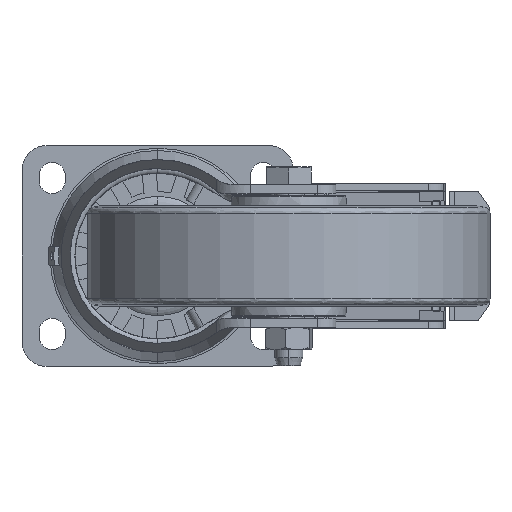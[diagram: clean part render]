
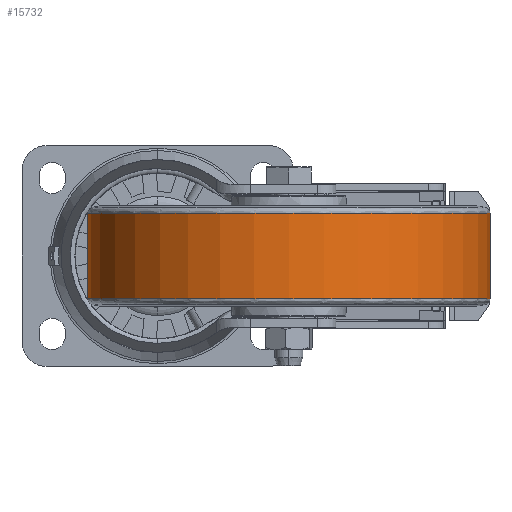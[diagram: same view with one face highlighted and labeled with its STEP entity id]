
A CAD part, front view. The second image highlights one B-rep face of the part: STEP entity #15732.
In plain terms, the highlighted cylindrical face has radius 100 mm (diameter 200 mm), a partial arc.
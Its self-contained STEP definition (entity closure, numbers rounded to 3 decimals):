
#115 = CYLINDRICAL_SURFACE ( 'NONE', #186, 100. ) ;
#116 = FACE_OUTER_BOUND ( 'NONE', #15735, .T. ) ;
#176 = DIRECTION ( 'NONE',  ( -1., 0., 0. ) ) ;
#177 = DIRECTION ( 'NONE',  ( 0., 0., -1. ) ) ;
#185 = CARTESIAN_POINT ( 'NONE',  ( 65.2, -126.869, -21.248 ) ) ;
#186 = AXIS2_PLACEMENT_3D ( 'NONE', #185, #177, #176 ) ;
#426 = CARTESIAN_POINT ( 'NONE',  ( -34.8, -126.869, -21.248 ) ) ;
#427 = CARTESIAN_POINT ( 'NONE',  ( -34.8, -126.869, -21.248 ) ) ;
#445 = CARTESIAN_POINT ( 'NONE',  ( 165.2, -126.869, -21.248 ) ) ;
#446 = DIRECTION ( 'NONE',  ( 0., 0., -1. ) ) ;
#447 = VECTOR ( 'NONE', #446, 1000. ) ;
#448 = CARTESIAN_POINT ( 'NONE',  ( 165.2, -126.869, -21.248 ) ) ;
#449 = LINE ( 'NONE', #448, #447 ) ;
#472 = DIRECTION ( 'NONE',  ( 0., 0., -1. ) ) ;
#473 = VECTOR ( 'NONE', #472, 1000. ) ;
#479 = LINE ( 'NONE', #426, #473 ) ;
#578 = DIRECTION ( 'NONE',  ( -1., 0., 0. ) ) ;
#579 = DIRECTION ( 'NONE',  ( 0., 0., -1. ) ) ;
#580 = CARTESIAN_POINT ( 'NONE',  ( 65.2, -126.869, 21.248 ) ) ;
#581 = AXIS2_PLACEMENT_3D ( 'NONE', #580, #579, #578 ) ;
#582 = CIRCLE ( 'NONE', #581, 100. ) ;
#620 = DIRECTION ( 'NONE',  ( -1., 0., 0. ) ) ;
#621 = DIRECTION ( 'NONE',  ( 0., 0., 1. ) ) ;
#622 = CARTESIAN_POINT ( 'NONE',  ( 65.2, -126.869, -21.248 ) ) ;
#623 = AXIS2_PLACEMENT_3D ( 'NONE', #622, #621, #620 ) ;
#634 = CIRCLE ( 'NONE', #623, 100. ) ;
#15673 = VERTEX_POINT ( 'NONE', #49716 ) ;
#15676 = VERTEX_POINT ( 'NONE', #49714 ) ;
#15732 = ADVANCED_FACE ( 'NONE', ( #116 ), #115, .T. ) ;
#15735 = EDGE_LOOP ( 'NONE', ( #15738, #15747, #15928, #15931 ) ) ;
#15738 = ORIENTED_EDGE ( 'NONE', *, *, #15846, .F. ) ;
#15747 = ORIENTED_EDGE ( 'NONE', *, *, #15925, .T. ) ;
#15846 = EDGE_CURVE ( 'NONE', #15676, #15848, #449, .T. ) ;
#15848 = VERTEX_POINT ( 'NONE', #445 ) ;
#15858 = VERTEX_POINT ( 'NONE', #427 ) ;
#15865 = EDGE_CURVE ( 'NONE', #15673, #15858, #479, .T. ) ;
#15925 = EDGE_CURVE ( 'NONE', #15676, #15673, #582, .T. ) ;
#15928 = ORIENTED_EDGE ( 'NONE', *, *, #15865, .T. ) ;
#15931 = ORIENTED_EDGE ( 'NONE', *, *, #15933, .T. ) ;
#15933 = EDGE_CURVE ( 'NONE', #15858, #15848, #634, .T. ) ;
#49714 = CARTESIAN_POINT ( 'NONE',  ( 165.2, -126.869, 21.248 ) ) ;
#49716 = CARTESIAN_POINT ( 'NONE',  ( -34.8, -126.869, 21.248 ) ) ;
